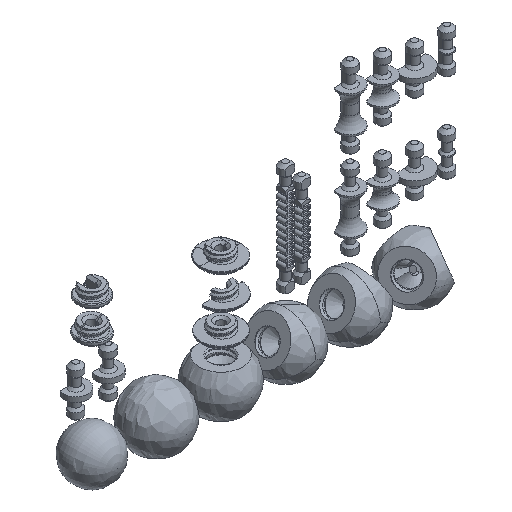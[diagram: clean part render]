
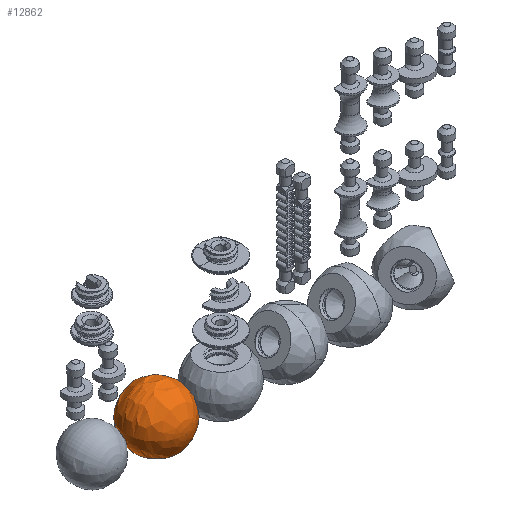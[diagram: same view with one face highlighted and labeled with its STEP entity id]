
A CAD part, isometric view. The second image highlights one B-rep face of the part: STEP entity #12862.
In plain terms, the highlighted free-form (B-spline) face has degree [2, 2] with [5, 9] control points.
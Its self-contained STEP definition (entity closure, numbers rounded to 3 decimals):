
#253=(
BOUNDED_SURFACE()
B_SPLINE_SURFACE(2,2,((#24535,#24536,#24537,#24538,#24539,#24540,#24541,
#24542,#24543),(#24544,#24545,#24546,#24547,#24548,#24549,#24550,#24551,
#24552),(#24553,#24554,#24555,#24556,#24557,#24558,#24559,#24560,#24561),
(#24562,#24563,#24564,#24565,#24566,#24567,#24568,#24569,#24570),(#24571,
#24572,#24573,#24574,#24575,#24576,#24577,#24578,#24579)),.UNSPECIFIED.,
 .F.,.T.,.F.)
B_SPLINE_SURFACE_WITH_KNOTS((3,2,3),(3,2,2,2,3),(-1.571,0.,1.571),
(0.,1.571,3.142,4.712,6.283),
 .UNSPECIFIED.)
GEOMETRIC_REPRESENTATION_ITEM()
RATIONAL_B_SPLINE_SURFACE(((1.,0.707,1.,0.707,1.,
0.707,1.,0.707,1.),(0.707,0.5,0.707,
0.5,0.707,0.5,0.707,0.5,0.707),(1.,
0.707,1.,0.707,1.,0.707,1.,0.707,
1.),(0.707,0.5,0.707,0.5,0.707,0.5,
0.707,0.5,0.707),(1.,0.707,1.,0.707,
1.,0.707,1.,0.707,1.)))
REPRESENTATION_ITEM('')
SURFACE()
);
#271=FACE_BOUND('',#1635,.T.);
#845=FACE_OUTER_BOUND('',#1634,.T.);
#1634=EDGE_LOOP('',(#8860,#8861));
#1635=EDGE_LOOP('',(#8862));
#2406=CIRCLE('',#13728,26.517);
#3105=B_SPLINE_CURVE_WITH_KNOTS('',3,(#24582,#24583,#24584,#24585,#24586,
#24587,#24588,#24589,#24590,#24591,#24592,#24593,#24594,#24595,#24596,#24597,
#24598,#24599,#24600,#24601,#24602,#24603,#24604,#24605,#24606,#24607,#24608,
#24609),.UNSPECIFIED.,.F.,.F.,(4,3,3,3,3,3,3,3,3,4),(-1.571,-1.162,
-0.766,-0.365,-0.066,0.104,
0.508,0.901,1.309,1.571),
 .UNSPECIFIED.);
#5146=VERTEX_POINT('',#24413);
#5149=VERTEX_POINT('',#24580);
#5150=VERTEX_POINT('',#24581);
#6567=EDGE_CURVE('',#5146,#5146,#2406,.T.);
#6574=EDGE_CURVE('',#5149,#5150,#3105,.T.);
#8860=ORIENTED_EDGE('',*,*,#6574,.T.);
#8861=ORIENTED_EDGE('',*,*,#6574,.F.);
#8862=ORIENTED_EDGE('',*,*,#6567,.T.);
#12862=ADVANCED_FACE('',(#845,#271),#253,.F.);
#13728=AXIS2_PLACEMENT_3D('',#24414,#15257,#15258);
#15257=DIRECTION('center_axis',(0.,0.,1.));
#15258=DIRECTION('ref_axis',(0.,1.,0.));
#24413=CARTESIAN_POINT('',(-26.517,0.,0.));
#24414=CARTESIAN_POINT('Origin',(0.,0.,0.));
#24535=CARTESIAN_POINT('Ctrl Pts',(0.,-37.5,26.517));
#24536=CARTESIAN_POINT('Ctrl Pts',(0.,-37.5,26.517));
#24537=CARTESIAN_POINT('Ctrl Pts',(0.,-37.5,26.517));
#24538=CARTESIAN_POINT('Ctrl Pts',(0.,-37.5,26.517));
#24539=CARTESIAN_POINT('Ctrl Pts',(0.,-37.5,26.517));
#24540=CARTESIAN_POINT('Ctrl Pts',(0.,-37.5,26.517));
#24541=CARTESIAN_POINT('Ctrl Pts',(0.,-37.5,26.517));
#24542=CARTESIAN_POINT('Ctrl Pts',(0.,-37.5,26.517));
#24543=CARTESIAN_POINT('Ctrl Pts',(0.,-37.5,26.517));
#24544=CARTESIAN_POINT('Ctrl Pts',(-37.5,-37.5,26.517));
#24545=CARTESIAN_POINT('Ctrl Pts',(-37.5,-37.5,64.017));
#24546=CARTESIAN_POINT('Ctrl Pts',(0.,-37.5,64.017));
#24547=CARTESIAN_POINT('Ctrl Pts',(37.5,-37.5,64.017));
#24548=CARTESIAN_POINT('Ctrl Pts',(37.5,-37.5,26.517));
#24549=CARTESIAN_POINT('Ctrl Pts',(37.5,-37.5,-10.983));
#24550=CARTESIAN_POINT('Ctrl Pts',(0.,-37.5,-10.983));
#24551=CARTESIAN_POINT('Ctrl Pts',(-37.5,-37.5,-10.983));
#24552=CARTESIAN_POINT('Ctrl Pts',(-37.5,-37.5,26.517));
#24553=CARTESIAN_POINT('Ctrl Pts',(-37.5,0.,26.517));
#24554=CARTESIAN_POINT('Ctrl Pts',(-37.5,0.,64.017));
#24555=CARTESIAN_POINT('Ctrl Pts',(0.,0.,64.017));
#24556=CARTESIAN_POINT('Ctrl Pts',(37.5,0.,64.017));
#24557=CARTESIAN_POINT('Ctrl Pts',(37.5,0.,26.517));
#24558=CARTESIAN_POINT('Ctrl Pts',(37.5,0.,-10.983));
#24559=CARTESIAN_POINT('Ctrl Pts',(0.,0.,-10.983));
#24560=CARTESIAN_POINT('Ctrl Pts',(-37.5,0.,-10.983));
#24561=CARTESIAN_POINT('Ctrl Pts',(-37.5,0.,26.517));
#24562=CARTESIAN_POINT('Ctrl Pts',(-37.5,37.5,26.517));
#24563=CARTESIAN_POINT('Ctrl Pts',(-37.5,37.5,64.017));
#24564=CARTESIAN_POINT('Ctrl Pts',(0.,37.5,64.017));
#24565=CARTESIAN_POINT('Ctrl Pts',(37.5,37.5,64.017));
#24566=CARTESIAN_POINT('Ctrl Pts',(37.5,37.5,26.517));
#24567=CARTESIAN_POINT('Ctrl Pts',(37.5,37.5,-10.983));
#24568=CARTESIAN_POINT('Ctrl Pts',(0.,37.5,-10.983));
#24569=CARTESIAN_POINT('Ctrl Pts',(-37.5,37.5,-10.983));
#24570=CARTESIAN_POINT('Ctrl Pts',(-37.5,37.5,26.517));
#24571=CARTESIAN_POINT('Ctrl Pts',(0.,37.5,26.517));
#24572=CARTESIAN_POINT('Ctrl Pts',(0.,37.5,26.517));
#24573=CARTESIAN_POINT('Ctrl Pts',(0.,37.5,26.517));
#24574=CARTESIAN_POINT('Ctrl Pts',(0.,37.5,26.517));
#24575=CARTESIAN_POINT('Ctrl Pts',(0.,37.5,26.517));
#24576=CARTESIAN_POINT('Ctrl Pts',(0.,37.5,26.517));
#24577=CARTESIAN_POINT('Ctrl Pts',(0.,37.5,26.517));
#24578=CARTESIAN_POINT('Ctrl Pts',(0.,37.5,26.517));
#24579=CARTESIAN_POINT('Ctrl Pts',(0.,37.5,26.517));
#24580=CARTESIAN_POINT('',(0.,37.5,26.517));
#24581=CARTESIAN_POINT('',(0.,-37.5,26.517));
#24582=CARTESIAN_POINT('Ctrl Pts',(0.,37.5,26.517));
#24583=CARTESIAN_POINT('Ctrl Pts',(-4.599,37.5,26.517));
#24584=CARTESIAN_POINT('Ctrl Pts',(-9.577,36.625,26.517));
#24585=CARTESIAN_POINT('Ctrl Pts',(-14.366,34.639,26.517));
#24586=CARTESIAN_POINT('Ctrl Pts',(-19.012,32.712,26.517));
#24587=CARTESIAN_POINT('Ctrl Pts',(-23.447,29.729,26.517));
#24588=CARTESIAN_POINT('Ctrl Pts',(-27.066,25.956,26.517));
#24589=CARTESIAN_POINT('Ctrl Pts',(-30.717,22.149,26.517));
#24590=CARTESIAN_POINT('Ctrl Pts',(-33.511,17.565,26.517));
#24591=CARTESIAN_POINT('Ctrl Pts',(-35.233,12.841,26.517));
#24592=CARTESIAN_POINT('Ctrl Pts',(-36.521,9.307,26.517));
#24593=CARTESIAN_POINT('Ctrl Pts',(-37.224,5.704,26.517));
#24594=CARTESIAN_POINT('Ctrl Pts',(-37.432,2.261,26.517));
#24595=CARTESIAN_POINT('Ctrl Pts',(-37.55,0.301,
26.517));
#24596=CARTESIAN_POINT('Ctrl Pts',(-37.519,-1.598,26.517));
#24597=CARTESIAN_POINT('Ctrl Pts',(-37.329,-3.578,
26.517));
#24598=CARTESIAN_POINT('Ctrl Pts',(-36.879,-8.273,
26.517));
#24599=CARTESIAN_POINT('Ctrl Pts',(-35.476,-13.223,
26.517));
#24600=CARTESIAN_POINT('Ctrl Pts',(-33.,-17.812,
26.517));
#24601=CARTESIAN_POINT('Ctrl Pts',(-30.591,-22.274,
26.517));
#24602=CARTESIAN_POINT('Ctrl Pts',(-27.167,-26.36,
26.517));
#24603=CARTESIAN_POINT('Ctrl Pts',(-23.102,-29.539,26.517));
#24604=CARTESIAN_POINT('Ctrl Pts',(-18.875,-32.845,
26.517));
#24605=CARTESIAN_POINT('Ctrl Pts',(-13.989,-35.151,
26.517));
#24606=CARTESIAN_POINT('Ctrl Pts',(-9.135,-36.37,26.517));
#24607=CARTESIAN_POINT('Ctrl Pts',(-6.031,-37.15,
26.517));
#24608=CARTESIAN_POINT('Ctrl Pts',(-2.941,-37.5,26.517));
#24609=CARTESIAN_POINT('Ctrl Pts',(0.,-37.5,26.517));
